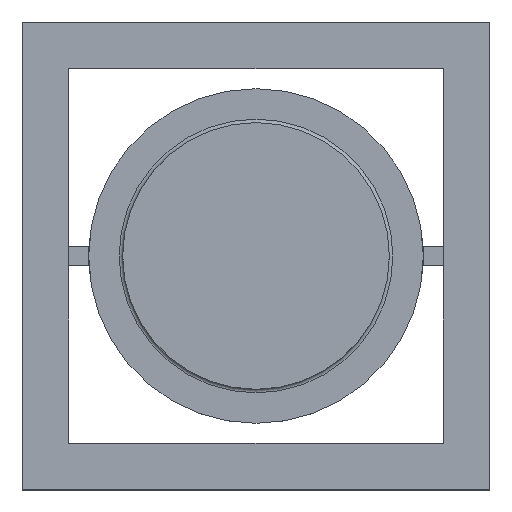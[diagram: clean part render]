
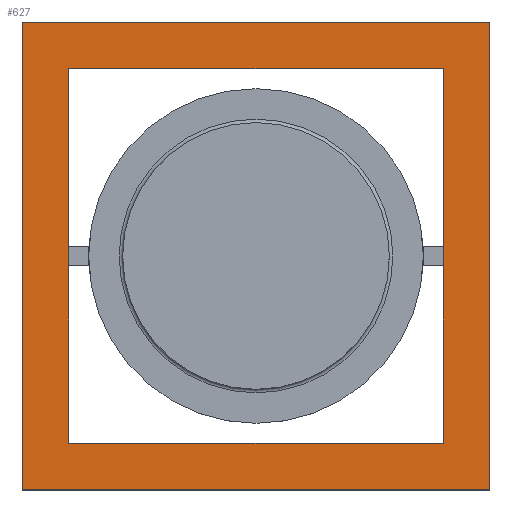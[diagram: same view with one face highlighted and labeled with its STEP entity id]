
A CAD part, top view. The second image highlights one B-rep face of the part: STEP entity #627.
In plain terms, the highlighted planar face has unit normal (0, 0, 1).
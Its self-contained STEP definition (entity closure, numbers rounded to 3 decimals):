
#445 = VERTEX_POINT('',#446);
#446 = CARTESIAN_POINT('',(18.,2.,2.6));
#461 = VERTEX_POINT('',#462);
#462 = CARTESIAN_POINT('',(18.,18.,2.6));
#468 = EDGE_CURVE('',#445,#461,#469,.T.);
#469 = LINE('',#470,#471);
#470 = CARTESIAN_POINT('',(18.,1.,2.6));
#471 = VECTOR('',#472,1.);
#472 = DIRECTION('',(-0.,1.,0.));
#515 = VERTEX_POINT('',#516);
#516 = CARTESIAN_POINT('',(2.,2.,2.6));
#531 = VERTEX_POINT('',#532);
#532 = CARTESIAN_POINT('',(2.,18.,2.6));
#538 = EDGE_CURVE('',#515,#531,#539,.T.);
#539 = LINE('',#540,#541);
#540 = CARTESIAN_POINT('',(2.,1.,2.6));
#541 = VECTOR('',#542,1.);
#542 = DIRECTION('',(-0.,1.,0.));
#566 = EDGE_CURVE('',#445,#515,#567,.T.);
#567 = LINE('',#568,#569);
#568 = CARTESIAN_POINT('',(1.,2.,2.6));
#569 = VECTOR('',#570,1.);
#570 = DIRECTION('',(-1.,-0.,0.));
#627 = ADVANCED_FACE('',(#628,#662),#673,.T.);
#628 = FACE_BOUND('',#629,.T.);
#629 = EDGE_LOOP('',(#630,#640,#648,#656));
#630 = ORIENTED_EDGE('',*,*,#631,.F.);
#631 = EDGE_CURVE('',#632,#634,#636,.T.);
#632 = VERTEX_POINT('',#633);
#633 = CARTESIAN_POINT('',(0.,0.,2.6));
#634 = VERTEX_POINT('',#635);
#635 = CARTESIAN_POINT('',(0.,20.,2.6));
#636 = LINE('',#637,#638);
#637 = CARTESIAN_POINT('',(0.,0.,2.6));
#638 = VECTOR('',#639,1.);
#639 = DIRECTION('',(-0.,1.,0.));
#640 = ORIENTED_EDGE('',*,*,#641,.T.);
#641 = EDGE_CURVE('',#632,#642,#644,.T.);
#642 = VERTEX_POINT('',#643);
#643 = CARTESIAN_POINT('',(20.,0.,2.6));
#644 = LINE('',#645,#646);
#645 = CARTESIAN_POINT('',(0.,0.,2.6));
#646 = VECTOR('',#647,1.);
#647 = DIRECTION('',(1.,0.,-0.));
#648 = ORIENTED_EDGE('',*,*,#649,.T.);
#649 = EDGE_CURVE('',#642,#650,#652,.T.);
#650 = VERTEX_POINT('',#651);
#651 = CARTESIAN_POINT('',(20.,20.,2.6));
#652 = LINE('',#653,#654);
#653 = CARTESIAN_POINT('',(20.,0.,2.6));
#654 = VECTOR('',#655,1.);
#655 = DIRECTION('',(-0.,1.,0.));
#656 = ORIENTED_EDGE('',*,*,#657,.F.);
#657 = EDGE_CURVE('',#634,#650,#658,.T.);
#658 = LINE('',#659,#660);
#659 = CARTESIAN_POINT('',(0.,20.,2.6));
#660 = VECTOR('',#661,1.);
#661 = DIRECTION('',(1.,0.,-0.));
#662 = FACE_BOUND('',#663,.T.);
#663 = EDGE_LOOP('',(#664,#665,#666,#672));
#664 = ORIENTED_EDGE('',*,*,#566,.T.);
#665 = ORIENTED_EDGE('',*,*,#538,.T.);
#666 = ORIENTED_EDGE('',*,*,#667,.F.);
#667 = EDGE_CURVE('',#461,#531,#668,.T.);
#668 = LINE('',#669,#670);
#669 = CARTESIAN_POINT('',(1.,18.,2.6));
#670 = VECTOR('',#671,1.);
#671 = DIRECTION('',(-1.,-0.,0.));
#672 = ORIENTED_EDGE('',*,*,#468,.F.);
#673 = PLANE('',#674);
#674 = AXIS2_PLACEMENT_3D('',#675,#676,#677);
#675 = CARTESIAN_POINT('',(0.,0.,2.6));
#676 = DIRECTION('',(0.,0.,1.));
#677 = DIRECTION('',(1.,0.,-0.));
